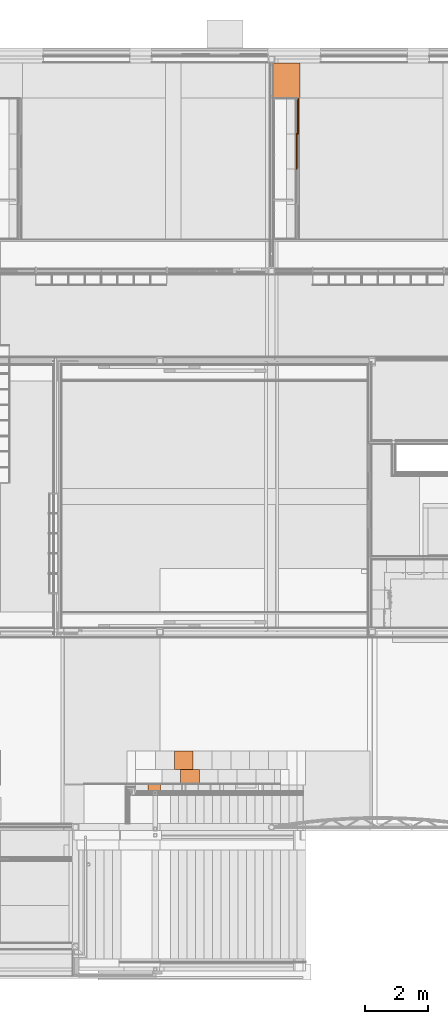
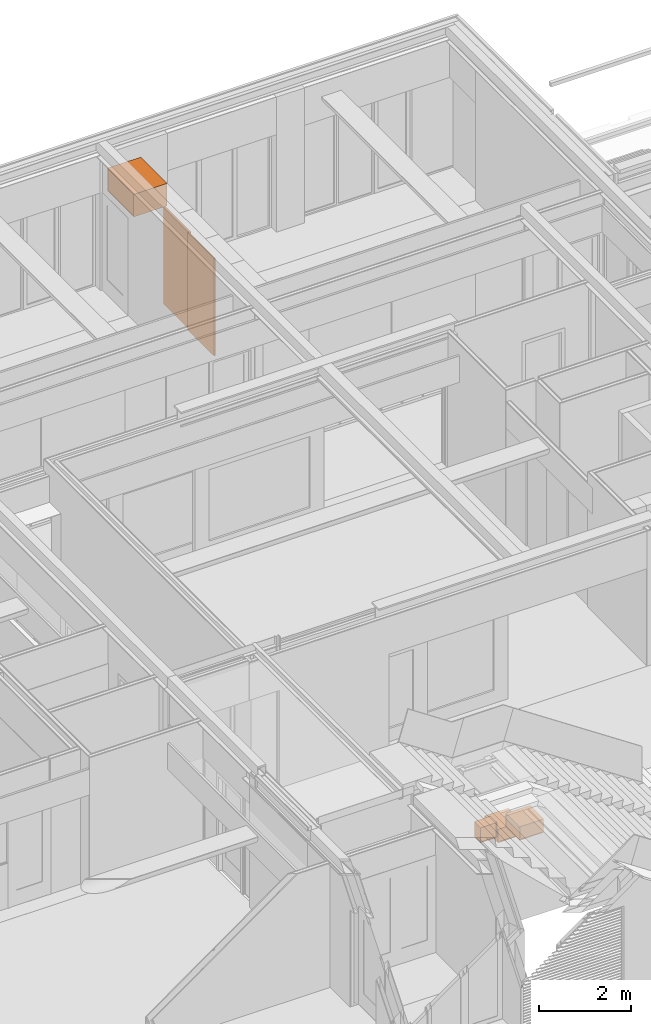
# One storey, part 137 of 165: 6 proxies.
"""IFC2X3 building model written with IfcOpenShell, lengths in millimetres."""

from ifc_helpers import new_model, entity, si_unit, converted_unit, derived_unit, money_unit, direction, frame, origin_with_axes, place, context, subcontext, project, spatial, faceted_brep, source, transform, mapped, type_object, type_shapes, element, save


model = new_model("IFC2X3")

# Units and contexts
model_context = context("Model", 3, precision=0.01, world=origin_with_axes(), true_north=direction((0.0, 1.0)))
body_context = subcontext(model_context, "Body", "Model", "MODEL_VIEW")
ifc_project = project(units=[si_unit("LENGTHUNIT", "METRE", prefix="MILLI"), si_unit("AREAUNIT", "SQUARE_METRE"), si_unit("VOLUMEUNIT", "CUBIC_METRE"), converted_unit("PLANEANGLEUNIT", "DEGREE", entity("IfcPlaneAngleMeasure", 0.0174532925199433), si_unit("PLANEANGLEUNIT", "RADIAN"), dimensions=[0, 0, 0, 0, 0, 0, 0]), money_unit("EUR"), converted_unit("TIMEUNIT", "Year", entity("IfcTimeMeasure", 31556926.0), si_unit("TIMEUNIT", "SECOND"), dimensions=[0, 0, 1, 0, 0, 0, 0]), si_unit("MASSUNIT", "GRAM", prefix="KILO"), si_unit("THERMODYNAMICTEMPERATUREUNIT", "DEGREE_CELSIUS"), si_unit("LUMINOUSINTENSITYUNIT", "LUMEN"), si_unit("ENERGYUNIT", "JOULE", prefix="MEGA"), derived_unit("THERMALCONDUCTANCEUNIT", [(si_unit("POWERUNIT", "WATT"), 1), (si_unit("LENGTHUNIT", "METRE"), -1), (si_unit("THERMODYNAMICTEMPERATUREUNIT", "KELVIN"), -1)]), derived_unit("SPECIFICHEATCAPACITYUNIT", [(si_unit("ENERGYUNIT", "JOULE"), 1), (si_unit("MASSUNIT", "GRAM", prefix="KILO"), -1), (si_unit("THERMODYNAMICTEMPERATUREUNIT", "KELVIN"), -1)]), derived_unit("MASSDENSITYUNIT", [(si_unit("MASSUNIT", "GRAM", prefix="KILO"), 1), (si_unit("VOLUMEUNIT", "CUBIC_METRE"), -1)])], contexts=[model_context])

# Site, building, storey
site_placement = place(None, origin_with_axes())
site = spatial("IfcSite", under=ifc_project, at=site_placement, Name="Site", CompositionType="ELEMENT")
building_placement = place(site_placement, origin_with_axes())
building = spatial("IfcBuilding", under=site, at=building_placement, Name="Naam gebouw", CompositionType="ELEMENT")
storey_placement = place(building_placement, origin_with_axes())
storey = spatial("IfcBuildingStorey", under=building, at=storey_placement, Name="Begane grond", CompositionType="ELEMENT", Elevation=0.0)

# Proxies
building_element_proxy_type_1 = type_object("IfcBuildingElementProxyType", Name="Onderkast recht 26", PredefinedType="NOTDEFINED")
shared_shape_1 = source(origin_with_axes(), body_context, "Body", "Brep", [
    faceted_brep([(0.0, -590.0, 310.0), (600.0, -590.0, 310.0), (600.0, -590.0, 360.0), (0.0, -590.0, 360.0), (0.0, 0.0, 310.0), (600.0, 0.0, 310.0), (600.0, 0.0, 360.0), (0.0, 0.0, 360.0)], [[[0, 1, 2, 3]], [[0, 4, 5, 1]], [[1, 5, 6, 2]], [[3, 2, 6, 7]], [[4, 0, 3, 7]], [[5, 4, 7, 6]]]),
    faceted_brep([(558.9999999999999, -572.0, 23.0), (40.99999999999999, -572.0, 23.0), (40.99999999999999, -18.00000000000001, 23.0), (558.9999999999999, -18.00000000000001, 23.0), (558.9999999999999, -572.0, 33.0), (40.99999999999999, -572.0, 33.0), (40.99999999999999, -18.00000000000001, 33.0), (558.9999999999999, -18.00000000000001, 33.0)], [[[0, 1, 2, 3]], [[1, 0, 4, 5]], [[2, 1, 5, 6]], [[3, 2, 6, 7]], [[0, 3, 7, 4]], [[5, 4, 7, 6]]]),
    faceted_brep([(61.0, -572.0, 33.0), (40.99999999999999, -572.0, 33.0), (40.99999999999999, -18.00000000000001, 33.0), (61.0, -18.00000000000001, 33.0), (61.0, -572.0, 286.9999999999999), (40.99999999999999, -572.0, 286.9999999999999), (40.99999999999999, -18.00000000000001, 286.9999999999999), (61.0, -18.00000000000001, 286.9999999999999)], [[[0, 1, 2, 3]], [[1, 0, 4, 5]], [[2, 1, 5, 6]], [[3, 2, 6, 7]], [[0, 3, 7, 4]], [[5, 4, 7, 6]]]),
    faceted_brep([(558.9999999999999, -572.0, 33.0), (538.9999999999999, -572.0, 33.0), (538.9999999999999, -18.00000000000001, 33.0), (558.9999999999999, -18.00000000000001, 33.0), (558.9999999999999, -572.0, 286.9999999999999), (538.9999999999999, -572.0, 286.9999999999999), (538.9999999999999, -18.00000000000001, 286.9999999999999), (558.9999999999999, -18.00000000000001, 286.9999999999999)], [[[0, 1, 2, 3]], [[1, 0, 4, 5]], [[2, 1, 5, 6]], [[3, 2, 6, 7]], [[0, 3, 7, 4]], [[5, 4, 7, 6]]]),
    faceted_brep([(538.9999999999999, -33.00000000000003, 33.0), (61.0, -33.00000000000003, 33.0), (61.0, -23.00000000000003, 33.0), (538.9999999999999, -23.00000000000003, 33.0), (538.9999999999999, -33.00000000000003, 286.9999999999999), (61.0, -33.00000000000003, 286.9999999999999), (61.0, -23.00000000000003, 286.9999999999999), (538.9999999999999, -23.00000000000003, 286.9999999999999)], [[[0, 1, 2, 3]], [[1, 0, 4, 5]], [[2, 1, 5, 6]], [[3, 2, 6, 7]], [[0, 3, 7, 4]], [[5, 4, 7, 6]]]),
    faceted_brep([(599.0, -590.0, 1.000000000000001), (599.0, -590.0, 309.0), (1.000000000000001, -590.0, 309.0), (1.000000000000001, -590.0, 1.000000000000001), (328.190778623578, -590.0, 240.26060429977), (329.5442325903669, -590.0, 235.2094453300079), (330.0000000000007, -590.0, 230.0), (329.5442325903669, -590.0, 224.7905546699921), (328.190778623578, -590.0, 219.7393957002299), (325.9807621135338, -590.0, 215.0), (322.9813332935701, -590.0, 210.7163717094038), (319.2836282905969, -590.0, 207.0186667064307), (315.0000000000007, -590.0, 204.0192378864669), (310.2606042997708, -590.0, 201.8092213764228), (305.2094453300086, -590.0, 200.4557674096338), (300.0000000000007, -590.0, 200.0), (294.7905546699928, -590.0, 200.4557674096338), (289.7393957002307, -590.0, 201.8092213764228), (285.0000000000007, -590.0, 204.0192378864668), (280.7163717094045, -590.0, 207.0186667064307), (277.0186667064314, -590.0, 210.7163717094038), (274.0192378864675, -590.0, 215.0), (271.8092213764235, -590.0, 219.7393957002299), (270.4557674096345, -590.0, 224.7905546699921), (270.0000000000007, -590.0, 230.0), (270.4557674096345, -590.0, 235.2094453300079), (271.8092213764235, -590.0, 240.2606042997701), (274.0192378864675, -590.0, 245.0), (277.0186667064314, -590.0, 249.2836282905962), (280.7163717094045, -590.0, 252.9813332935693), (285.0000000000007, -590.0, 255.9807621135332), (289.7393957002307, -590.0, 258.1907786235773), (294.7905546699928, -590.0, 259.5442325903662), (300.0000000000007, -590.0, 260.0), (305.2094453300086, -590.0, 259.5442325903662), (310.2606042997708, -590.0, 258.1907786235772), (315.0000000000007, -590.0, 255.9807621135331), (319.2836282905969, -590.0, 252.9813332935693), (322.9813332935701, -590.0, 249.2836282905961), (325.9807621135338, -590.0, 244.9999999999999), (599.0, -572.0, 309.0), (599.0, -572.0, 1.000000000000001), (1.000000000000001, -572.0, 309.0), (1.000000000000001, -572.0, 1.000000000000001), (328.190778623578, -572.0, 240.26060429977), (329.5442325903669, -572.0, 235.2094453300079), (330.0000000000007, -572.0, 230.0), (329.5442325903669, -572.0, 224.7905546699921), (328.190778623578, -572.0, 219.7393957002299), (325.9807621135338, -572.0, 215.0), (322.9813332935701, -572.0, 210.7163717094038), (319.2836282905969, -572.0, 207.0186667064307), (315.0000000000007, -572.0, 204.0192378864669), (310.2606042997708, -572.0, 201.8092213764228), (305.2094453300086, -572.0, 200.4557674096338), (300.0000000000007, -572.0, 200.0), (294.7905546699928, -572.0, 200.4557674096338), (289.7393957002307, -572.0, 201.8092213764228), (285.0000000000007, -572.0, 204.0192378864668), (280.7163717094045, -572.0, 207.0186667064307), (277.0186667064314, -572.0, 210.7163717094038), (274.0192378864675, -572.0, 215.0), (271.8092213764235, -572.0, 219.7393957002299), (270.4557674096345, -572.0, 224.7905546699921), (270.0000000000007, -572.0, 230.0), (270.4557674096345, -572.0, 235.2094453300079), (271.8092213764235, -572.0, 240.2606042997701), (274.0192378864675, -572.0, 245.0), (277.0186667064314, -572.0, 249.2836282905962), (280.7163717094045, -572.0, 252.9813332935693), (285.0000000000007, -572.0, 255.9807621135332), (289.7393957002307, -572.0, 258.1907786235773), (294.7905546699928, -572.0, 259.5442325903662), (300.0000000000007, -572.0, 260.0), (305.2094453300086, -572.0, 259.5442325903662), (310.2606042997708, -572.0, 258.1907786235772), (315.0000000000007, -572.0, 255.9807621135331), (319.2836282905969, -572.0, 252.9813332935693), (322.9813332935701, -572.0, 249.2836282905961), (325.9807621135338, -572.0, 244.9999999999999)], [[[0, 1, 2, 3], [4, 5, 6, 7, 8, 9, 10, 11, 12, 13, 14, 15, 16, 17, 18, 19, 20, 21, 22, 23, 24, 25, 26, 27, 28, 29, 30, 31, 32, 33, 34, 35, 36, 37, 38, 39]], [[40, 1, 0, 41]], [[42, 2, 1, 40]], [[43, 3, 2, 42]], [[41, 0, 3, 43]], [[44, 45, 5, 4]], [[45, 46, 6, 5]], [[46, 47, 7, 6]], [[47, 48, 8, 7]], [[48, 49, 9, 8]], [[49, 50, 10, 9]], [[50, 51, 11, 10]], [[51, 52, 12, 11]], [[52, 53, 13, 12]], [[53, 54, 14, 13]], [[54, 55, 15, 14]], [[55, 56, 16, 15]], [[56, 57, 17, 16]], [[57, 58, 18, 17]], [[58, 59, 19, 18]], [[59, 60, 20, 19]], [[60, 61, 21, 20]], [[61, 62, 22, 21]], [[62, 63, 23, 22]], [[63, 64, 24, 23]], [[64, 65, 25, 24]], [[65, 66, 26, 25]], [[66, 67, 27, 26]], [[67, 68, 28, 27]], [[68, 69, 29, 28]], [[69, 70, 30, 29]], [[70, 71, 31, 30]], [[71, 72, 32, 31]], [[72, 73, 33, 32]], [[73, 74, 34, 33]], [[74, 75, 35, 34]], [[75, 76, 36, 35]], [[76, 77, 37, 36]], [[77, 78, 38, 37]], [[78, 79, 39, 38]], [[79, 44, 4, 39]], [[42, 40, 41, 43], [48, 47, 46, 45, 44, 79, 78, 77, 76, 75, 74, 73, 72, 71, 70, 69, 68, 67, 66, 65, 64, 63, 62, 61, 60, 59, 58, 57, 56, 55, 54, 53, 52, 51, 50, 49]]]),
    faceted_brep([(18.0, -1.0, 1.0), (18.0, -571.0, 1.0), (0.0, -571.0, 1.000000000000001), (0.0, -1.0, 1.000000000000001), (18.00000000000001, -1.0, 309.0), (18.00000000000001, -571.0, 309.0), (0.0, -571.0, 309.0), (0.0, -1.0, 309.0)], [[[0, 1, 2, 3]], [[0, 4, 5, 1]], [[1, 5, 6, 2]], [[3, 2, 6, 7]], [[4, 0, 3, 7]], [[5, 4, 7, 6]]]),
    faceted_brep([(582.0, -571.0, 1.0), (582.0, -1.000000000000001, 1.0), (600.0, -1.000000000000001, 1.000000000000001), (600.0, -571.0, 1.000000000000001), (582.0, -571.0, 309.0), (582.0, -1.000000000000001, 309.0), (600.0, -1.000000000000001, 309.0), (600.0, -571.0, 309.0)], [[[0, 1, 2, 3]], [[0, 4, 5, 1]], [[1, 5, 6, 2]], [[3, 2, 6, 7]], [[4, 0, 3, 7]], [[5, 4, 7, 6]]]),
    faceted_brep([(36.0, -572.0, 0.0), (564.0, -572.0, 0.0), (564.0, -572.0, 18.0), (36.0, -572.0, 18.0), (36.0, 0.0, 0.0), (564.0, 0.0, 0.0), (564.0, 0.0, 18.0), (36.0, 0.0, 18.0)], [[[0, 1, 2, 3]], [[0, 4, 5, 1]], [[1, 5, 6, 2]], [[3, 2, 6, 7]], [[4, 0, 3, 7]], [[5, 4, 7, 6]]]),
    faceted_brep([(36.0, -572.0, 292.0), (36.0, -512.0, 292.0), (564.0, -512.0, 292.0), (564.0, -572.0, 292.0), (36.0, -572.0, 310.0), (36.0, -512.0, 310.0), (564.0, -512.0, 310.0), (564.0, -572.0, 310.0)], [[[0, 1, 2, 3]], [[0, 4, 5, 1]], [[1, 5, 6, 2]], [[3, 2, 6, 7]], [[4, 0, 3, 7]], [[5, 4, 7, 6]]]),
    faceted_brep([(564.0, 0.0, 292.0), (564.0, -60.0, 292.0), (36.0, -60.0, 292.0), (36.0, 0.0, 292.0), (564.0, 0.0, 310.0), (564.0, -60.0, 310.0), (36.0, -60.0, 310.0), (36.0, 0.0, 310.0)], [[[0, 1, 2, 3]], [[0, 4, 5, 1]], [[1, 5, 6, 2]], [[3, 2, 6, 7]], [[4, 0, 3, 7]], [[5, 4, 7, 6]]]),
    faceted_brep([(18.0, 0.0, 0.0), (18.0, -572.0, 0.0), (18.0, -572.0, 310.0), (18.0, 0.0, 310.0), (36.0, 0.0, 0.0), (36.0, -572.0, 0.0), (36.0, -572.0, 310.0), (36.0, 0.0, 310.0)], [[[0, 1, 2, 3]], [[0, 4, 5, 1]], [[1, 5, 6, 2]], [[3, 2, 6, 7]], [[4, 0, 3, 7]], [[5, 4, 7, 6]]]),
    faceted_brep([(582.0, -572.0, 0.0), (582.0, 0.0, 0.0), (582.0, 0.0, 310.0), (582.0, -572.0, 310.0), (564.0, -572.0, 0.0), (564.0, 0.0, 0.0), (564.0, 0.0, 310.0), (564.0, -572.0, 310.0)], [[[0, 1, 2, 3]], [[0, 4, 5, 1]], [[1, 5, 6, 2]], [[3, 2, 6, 7]], [[4, 0, 3, 7]], [[5, 4, 7, 6]]]),
    faceted_brep([(564.0, -9.0, 18.0), (36.00000000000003, -9.0, 18.0), (36.00000000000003, -9.0, 292.0000000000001), (564.0, -9.0, 292.0000000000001), (564.0, -18.0, 18.0), (36.00000000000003, -18.0, 18.0), (36.00000000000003, -18.0, 292.0000000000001), (564.0, -18.0, 292.0000000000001)], [[[0, 1, 2, 3]], [[0, 4, 5, 1]], [[1, 5, 6, 2]], [[3, 2, 6, 7]], [[4, 0, 3, 7]], [[5, 4, 7, 6]]]),
])
proxy_1_placement = place(storey_placement, frame((15200.00001687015, 6430.000292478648, 0.0), z_axis=(0.0, 0.0, 1.0), x_axis=(-1.0, 0.0, 0.0)))
element("IfcBuildingElementProxy", 1, at=proxy_1_placement, inside=storey, type_object=building_element_proxy_type_1, Name="_Leeg", context=body_context, shape_type="MappedRepresentation", body=[
    mapped(shared_shape_1, transform((0.0, 0.0, 0.0))),
])
shared_shape_2 = source(origin_with_axes(), body_context, "Body", "Brep", [
    faceted_brep([(0.0, -600.0, 310.0), (0.0, -600.0, 360.0), (-600.0, -600.0, 360.0), (-600.0, -600.0, 310.0), (0.0, 0.0, 310.0), (0.0, 0.0, 360.0), (-600.0, 0.0, 360.0), (-600.0, 0.0, 310.0)], [[[0, 1, 2, 3]], [[4, 5, 1, 0]], [[1, 5, 6, 2]], [[3, 2, 6, 7]], [[0, 3, 7, 4]], [[7, 6, 5, 4]]]),
    faceted_brep([(-558.9999999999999, -582.0, 23.0), (-558.9999999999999, -18.00000000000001, 23.0), (-40.99999999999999, -18.00000000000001, 23.0), (-40.99999999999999, -582.0, 23.0), (-558.9999999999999, -582.0, 33.0), (-558.9999999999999, -18.00000000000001, 33.0), (-40.99999999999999, -18.00000000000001, 33.0), (-40.99999999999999, -582.0, 33.0)], [[[0, 1, 2, 3]], [[0, 4, 5, 1]], [[1, 5, 6, 2]], [[2, 6, 7, 3]], [[3, 7, 4, 0]], [[7, 6, 5, 4]]]),
    faceted_brep([(-61.0, -582.0, 33.0), (-61.0, -18.00000000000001, 33.0), (-40.99999999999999, -18.00000000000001, 33.0), (-40.99999999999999, -582.0, 33.0), (-61.0, -582.0, 286.9999999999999), (-61.0, -18.00000000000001, 286.9999999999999), (-40.99999999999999, -18.00000000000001, 286.9999999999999), (-40.99999999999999, -582.0, 286.9999999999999)], [[[0, 1, 2, 3]], [[0, 4, 5, 1]], [[1, 5, 6, 2]], [[2, 6, 7, 3]], [[3, 7, 4, 0]], [[7, 6, 5, 4]]]),
    faceted_brep([(-558.9999999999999, -582.0, 33.0), (-558.9999999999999, -18.00000000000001, 33.0), (-538.9999999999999, -18.00000000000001, 33.0), (-538.9999999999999, -582.0, 33.0), (-558.9999999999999, -582.0, 286.9999999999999), (-558.9999999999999, -18.00000000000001, 286.9999999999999), (-538.9999999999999, -18.00000000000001, 286.9999999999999), (-538.9999999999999, -582.0, 286.9999999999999)], [[[0, 1, 2, 3]], [[0, 4, 5, 1]], [[1, 5, 6, 2]], [[2, 6, 7, 3]], [[3, 7, 4, 0]], [[7, 6, 5, 4]]]),
    faceted_brep([(-538.9999999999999, -33.00000000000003, 33.0), (-538.9999999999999, -23.00000000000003, 33.0), (-61.0, -23.00000000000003, 33.0), (-61.0, -33.00000000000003, 33.0), (-538.9999999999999, -33.00000000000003, 286.9999999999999), (-538.9999999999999, -23.00000000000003, 286.9999999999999), (-61.0, -23.00000000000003, 286.9999999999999), (-61.0, -33.00000000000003, 286.9999999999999)], [[[0, 1, 2, 3]], [[0, 4, 5, 1]], [[1, 5, 6, 2]], [[2, 6, 7, 3]], [[3, 7, 4, 0]], [[7, 6, 5, 4]]]),
    faceted_brep([(-599.0, -600.0, 1.000000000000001), (-1.000000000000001, -600.0, 1.000000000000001), (-1.000000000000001, -600.0, 309.0), (-599.0, -600.0, 309.0), (-328.1907786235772, -600.0, 240.26060429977), (-325.9807621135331, -600.0, 244.9999999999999), (-322.9813332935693, -600.0, 249.2836282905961), (-319.2836282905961, -600.0, 252.9813332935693), (-314.9999999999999, -600.0, 255.9807621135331), (-310.26060429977, -600.0, 258.1907786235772), (-305.2094453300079, -600.0, 259.5442325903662), (-300.0, -600.0, 260.0), (-294.7905546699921, -600.0, 259.5442325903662), (-289.7393957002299, -600.0, 258.1907786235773), (-285.0, -600.0, 255.9807621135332), (-280.7163717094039, -600.0, 252.9813332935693), (-277.0186667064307, -600.0, 249.2836282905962), (-274.0192378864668, -600.0, 245.0), (-271.8092213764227, -600.0, 240.2606042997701), (-270.4557674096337, -600.0, 235.2094453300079), (-270.0, -600.0, 230.0), (-270.4557674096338, -600.0, 224.7905546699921), (-271.8092213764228, -600.0, 219.7393957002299), (-274.0192378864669, -600.0, 215.0), (-277.0186667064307, -600.0, 210.7163717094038), (-280.7163717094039, -600.0, 207.0186667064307), (-285.0, -600.0, 204.0192378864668), (-289.7393957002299, -600.0, 201.8092213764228), (-294.7905546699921, -600.0, 200.4557674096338), (-300.0, -600.0, 200.0), (-305.2094453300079, -600.0, 200.4557674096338), (-310.26060429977, -600.0, 201.8092213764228), (-314.9999999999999, -600.0, 204.0192378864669), (-319.2836282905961, -600.0, 207.0186667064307), (-322.9813332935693, -600.0, 210.7163717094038), (-325.9807621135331, -600.0, 215.0), (-328.1907786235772, -600.0, 219.7393957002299), (-329.5442325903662, -600.0, 224.7905546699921), (-329.9999999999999, -600.0, 230.0), (-329.5442325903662, -600.0, 235.2094453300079), (-599.0, -582.0, 1.000000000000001), (-1.000000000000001, -582.0, 1.000000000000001), (-1.000000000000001, -582.0, 309.0), (-599.0, -582.0, 309.0), (-325.9807621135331, -582.0, 244.9999999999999), (-328.1907786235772, -582.0, 240.26060429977), (-322.9813332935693, -582.0, 249.2836282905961), (-319.2836282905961, -582.0, 252.9813332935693), (-314.9999999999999, -582.0, 255.9807621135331), (-310.26060429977, -582.0, 258.1907786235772), (-305.2094453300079, -582.0, 259.5442325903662), (-300.0, -582.0, 260.0), (-294.7905546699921, -582.0, 259.5442325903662), (-289.7393957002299, -582.0, 258.1907786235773), (-285.0, -582.0, 255.9807621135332), (-280.7163717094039, -582.0, 252.9813332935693), (-277.0186667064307, -582.0, 249.2836282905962), (-274.0192378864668, -582.0, 245.0), (-271.8092213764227, -582.0, 240.2606042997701), (-270.4557674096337, -582.0, 235.2094453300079), (-270.0, -582.0, 230.0), (-270.4557674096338, -582.0, 224.7905546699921), (-271.8092213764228, -582.0, 219.7393957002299), (-274.0192378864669, -582.0, 215.0), (-277.0186667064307, -582.0, 210.7163717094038), (-280.7163717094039, -582.0, 207.0186667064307), (-285.0, -582.0, 204.0192378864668), (-289.7393957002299, -582.0, 201.8092213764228), (-294.7905546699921, -582.0, 200.4557674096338), (-300.0, -582.0, 200.0), (-305.2094453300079, -582.0, 200.4557674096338), (-310.26060429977, -582.0, 201.8092213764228), (-314.9999999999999, -582.0, 204.0192378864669), (-319.2836282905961, -582.0, 207.0186667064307), (-322.9813332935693, -582.0, 210.7163717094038), (-325.9807621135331, -582.0, 215.0), (-328.1907786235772, -582.0, 219.7393957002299), (-329.5442325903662, -582.0, 224.7905546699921), (-329.9999999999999, -582.0, 230.0), (-329.5442325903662, -582.0, 235.2094453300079)], [[[0, 1, 2, 3], [4, 5, 6, 7, 8, 9, 10, 11, 12, 13, 14, 15, 16, 17, 18, 19, 20, 21, 22, 23, 24, 25, 26, 27, 28, 29, 30, 31, 32, 33, 34, 35, 36, 37, 38, 39]], [[40, 41, 1, 0]], [[41, 42, 2, 1]], [[42, 43, 3, 2]], [[43, 40, 0, 3]], [[44, 5, 4, 45]], [[46, 6, 5, 44]], [[47, 7, 6, 46]], [[48, 8, 7, 47]], [[49, 9, 8, 48]], [[50, 10, 9, 49]], [[51, 11, 10, 50]], [[52, 12, 11, 51]], [[53, 13, 12, 52]], [[54, 14, 13, 53]], [[55, 15, 14, 54]], [[56, 16, 15, 55]], [[57, 17, 16, 56]], [[58, 18, 17, 57]], [[59, 19, 18, 58]], [[60, 20, 19, 59]], [[61, 21, 20, 60]], [[62, 22, 21, 61]], [[63, 23, 22, 62]], [[64, 24, 23, 63]], [[65, 25, 24, 64]], [[66, 26, 25, 65]], [[67, 27, 26, 66]], [[68, 28, 27, 67]], [[69, 29, 28, 68]], [[70, 30, 29, 69]], [[71, 31, 30, 70]], [[72, 32, 31, 71]], [[73, 33, 32, 72]], [[74, 34, 33, 73]], [[75, 35, 34, 74]], [[76, 36, 35, 75]], [[77, 37, 36, 76]], [[78, 38, 37, 77]], [[79, 39, 38, 78]], [[45, 4, 39, 79]], [[42, 41, 40, 43], [76, 75, 74, 73, 72, 71, 70, 69, 68, 67, 66, 65, 64, 63, 62, 61, 60, 59, 58, 57, 56, 55, 54, 53, 52, 51, 50, 49, 48, 47, 46, 44, 45, 79, 78, 77]]]),
    faceted_brep([(-18.0, -1.0, 1.0), (0.0, -1.0, 1.000000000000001), (0.0, -581.0, 1.000000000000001), (-18.0, -581.0, 1.0), (-18.00000000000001, -1.0, 309.0), (0.0, -1.0, 309.0), (0.0, -581.0, 309.0), (-18.00000000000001, -581.0, 309.0)], [[[0, 1, 2, 3]], [[4, 5, 1, 0]], [[1, 5, 6, 2]], [[3, 2, 6, 7]], [[0, 3, 7, 4]], [[7, 6, 5, 4]]]),
    faceted_brep([(-582.0, -581.0, 1.0), (-600.0, -581.0, 1.000000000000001), (-600.0, -1.000000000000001, 1.000000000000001), (-582.0, -1.000000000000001, 1.0), (-582.0, -581.0, 309.0), (-600.0, -581.0, 309.0), (-600.0, -1.000000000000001, 309.0), (-582.0, -1.000000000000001, 309.0)], [[[0, 1, 2, 3]], [[4, 5, 1, 0]], [[1, 5, 6, 2]], [[3, 2, 6, 7]], [[0, 3, 7, 4]], [[7, 6, 5, 4]]]),
    faceted_brep([(-36.0, -582.0, 0.0), (-36.0, -582.0, 18.0), (-564.0, -582.0, 18.0), (-564.0, -582.0, 0.0), (-36.0, 0.0, 0.0), (-36.0, 0.0, 18.0), (-564.0, 0.0, 18.0), (-564.0, 0.0, 0.0)], [[[0, 1, 2, 3]], [[4, 5, 1, 0]], [[1, 5, 6, 2]], [[3, 2, 6, 7]], [[0, 3, 7, 4]], [[7, 6, 5, 4]]]),
    faceted_brep([(-36.0, -582.0, 292.0), (-564.0, -582.0, 292.0), (-564.0, -522.0, 292.0), (-36.0, -522.0, 292.0), (-36.0, -582.0, 310.0), (-564.0, -582.0, 310.0), (-564.0, -522.0, 310.0), (-36.0, -522.0, 310.0)], [[[0, 1, 2, 3]], [[4, 5, 1, 0]], [[1, 5, 6, 2]], [[3, 2, 6, 7]], [[0, 3, 7, 4]], [[7, 6, 5, 4]]]),
    faceted_brep([(-564.0, 0.0, 292.0), (-36.0, 0.0, 292.0), (-36.0, -60.0, 292.0), (-564.0, -60.0, 292.0), (-564.0, 0.0, 310.0), (-36.0, 0.0, 310.0), (-36.0, -60.0, 310.0), (-564.0, -60.0, 310.0)], [[[0, 1, 2, 3]], [[4, 5, 1, 0]], [[1, 5, 6, 2]], [[3, 2, 6, 7]], [[0, 3, 7, 4]], [[7, 6, 5, 4]]]),
    faceted_brep([(-18.0, 0.0, 0.0), (-18.0, 0.0, 310.0), (-18.0, -582.0, 310.0), (-18.0, -582.0, 0.0), (-36.0, 0.0, 0.0), (-36.0, 0.0, 310.0), (-36.0, -582.0, 310.0), (-36.0, -582.0, 0.0)], [[[0, 1, 2, 3]], [[4, 5, 1, 0]], [[1, 5, 6, 2]], [[3, 2, 6, 7]], [[0, 3, 7, 4]], [[7, 6, 5, 4]]]),
    faceted_brep([(-582.0, -582.0, 0.0), (-582.0, -582.0, 310.0), (-582.0, 0.0, 310.0), (-582.0, 0.0, 0.0), (-564.0, -582.0, 0.0), (-564.0, -582.0, 310.0), (-564.0, 0.0, 310.0), (-564.0, 0.0, 0.0)], [[[0, 1, 2, 3]], [[4, 5, 1, 0]], [[1, 5, 6, 2]], [[3, 2, 6, 7]], [[0, 3, 7, 4]], [[7, 6, 5, 4]]]),
    faceted_brep([(-564.0, -9.0, 18.0), (-564.0, -9.0, 292.0000000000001), (-36.00000000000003, -9.0, 292.0000000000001), (-36.00000000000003, -9.0, 18.0), (-564.0, -18.0, 18.0), (-564.0, -18.0, 292.0000000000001), (-36.00000000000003, -18.0, 292.0000000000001), (-36.00000000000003, -18.0, 18.0)], [[[0, 1, 2, 3]], [[4, 5, 1, 0]], [[1, 5, 6, 2]], [[3, 2, 6, 7]], [[0, 3, 7, 4]], [[7, 6, 5, 4]]]),
])
proxy_2_placement = place(storey_placement, frame((14800.00001687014, 5830.000239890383, 359.9999999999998), z_axis=(0.0, 0.0, 1.0), x_axis=(-1.0, 0.0, 0.0)))
element("IfcBuildingElementProxy", 2, at=proxy_2_placement, inside=storey, type_object=building_element_proxy_type_1, Name="_Leeg", context=body_context, shape_type="MappedRepresentation", body=[
    mapped(shared_shape_2, transform((0.0, 0.0, 0.0))),
])
shared_shape_3 = source(origin_with_axes(), body_context, "Body", "Brep", [
    faceted_brep([(-1.0, -826.9999999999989, 1.0), (-1.0, -844.9999999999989, 1.000000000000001), (-1152.000152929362, -844.9999999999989, 1.000000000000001), (-1152.000152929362, -826.9999999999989, 1.0), (-1.0, -826.9999999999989, 599.0), (-1.0, -844.9999999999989, 599.0), (-1152.000152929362, -844.9999999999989, 599.0), (-1152.000152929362, -826.9999999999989, 599.0)], [[[0, 1, 2, 3]], [[4, 5, 1, 0]], [[1, 5, 6, 2]], [[3, 2, 6, 7]], [[0, 3, 7, 4]], [[7, 6, 5, 4]]]),
    faceted_brep([(-18.0, -826.9999999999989, 0.0), (-18.0, -826.9999999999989, 18.0), (-1135.000152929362, -826.9999999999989, 18.0), (-1135.000152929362, -826.9999999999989, 0.0), (-18.0, 0.0, 0.0), (-18.0, 0.0, 18.0), (-1135.000152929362, 0.0, 18.0), (-1135.000152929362, 0.0, 0.0)], [[[0, 1, 2, 3]], [[4, 5, 1, 0]], [[1, 5, 6, 2]], [[3, 2, 6, 7]], [[0, 3, 7, 4]], [[7, 6, 5, 4]]]),
    faceted_brep([(-18.0, -826.9999999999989, 582.0), (-18.0, -826.9999999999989, 600.0), (-1135.000152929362, -826.9999999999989, 600.0), (-1135.000152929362, -826.9999999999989, 582.0), (-18.0, 0.0, 582.0), (-18.0, 0.0, 600.0), (-1135.000152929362, 0.0, 600.0), (-1135.000152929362, 0.0, 582.0)], [[[0, 1, 2, 3]], [[4, 5, 1, 0]], [[1, 5, 6, 2]], [[3, 2, 6, 7]], [[0, 3, 7, 4]], [[7, 6, 5, 4]]]),
    faceted_brep([(0.0, 0.0, 0.0), (0.0, 0.0, 600.0), (0.0, -826.9999999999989, 600.0), (0.0, -826.9999999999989, 0.0), (-18.0, 0.0, 0.0), (-18.0, 0.0, 600.0), (-18.0, -826.9999999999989, 600.0), (-18.0, -826.9999999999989, 0.0)], [[[0, 1, 2, 3]], [[4, 5, 1, 0]], [[1, 5, 6, 2]], [[3, 2, 6, 7]], [[0, 3, 7, 4]], [[7, 6, 5, 4]]]),
    faceted_brep([(-1153.000152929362, -826.9999999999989, 0.0), (-1153.000152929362, -826.9999999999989, 600.0), (-1153.000152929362, 0.0, 600.0), (-1153.000152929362, 0.0, 0.0), (-1135.000152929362, -826.9999999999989, 0.0), (-1135.000152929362, -826.9999999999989, 600.0), (-1135.000152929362, 0.0, 600.0), (-1135.000152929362, 0.0, 0.0)], [[[0, 1, 2, 3]], [[4, 5, 1, 0]], [[1, 5, 6, 2]], [[3, 2, 6, 7]], [[0, 3, 7, 4]], [[7, 6, 5, 4]]]),
    faceted_brep([(-1135.000152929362, -9.0, 18.0), (-1135.000152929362, -9.0, 582.0), (-18.00000000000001, -9.0, 582.0), (-18.00000000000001, -9.0, 18.0), (-1135.000152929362, -18.0, 18.0), (-1135.000152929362, -18.0, 582.0), (-18.00000000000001, -18.0, 582.0), (-18.00000000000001, -18.0, 18.0)], [[[0, 1, 2, 3]], [[4, 5, 1, 0]], [[1, 5, 6, 2]], [[3, 2, 6, 7]], [[0, 3, 7, 4]], [[7, 6, 5, 4]]]),
])
proxy_3_placement = place(storey_placement, frame((17762.49942456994, 28961.0, 2600.0), z_axis=(0.0, 0.0, 1.0), x_axis=(0.0, 1.0, 0.0)))
element("IfcBuildingElementProxy", 3, at=proxy_3_placement, inside=storey, type_object=building_element_proxy_type_1, Name="_Leeg", context=body_context, shape_type="MappedRepresentation", body=[
    mapped(shared_shape_3, transform((0.0, 0.0, 0.0))),
])
shared_shape_4 = source(origin_with_axes(), body_context, "Body", "Brep", [
    faceted_brep([(18.0, -280.0000000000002, 0.0), (391.0000000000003, -280.0000000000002, 0.0), (391.0000000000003, -280.0000000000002, 18.0), (18.0, -280.0000000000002, 18.0), (18.0, 0.0, 0.0), (391.0000000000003, 0.0, 0.0), (391.0000000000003, 0.0, 18.0), (18.0, 0.0, 18.0)], [[[0, 1, 2, 3]], [[0, 4, 5, 1]], [[1, 5, 6, 2]], [[3, 2, 6, 7]], [[4, 0, 3, 7]], [[5, 4, 7, 6]]]),
    faceted_brep([(18.0, -280.0000000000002, 381.9999999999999), (391.0000000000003, -280.0000000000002, 381.9999999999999), (391.0000000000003, -280.0000000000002, 399.9999999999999), (18.0, -280.0000000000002, 399.9999999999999), (18.0, 0.0, 381.9999999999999), (391.0000000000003, 0.0, 381.9999999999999), (391.0000000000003, 0.0, 399.9999999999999), (18.0, 0.0, 399.9999999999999)], [[[0, 1, 2, 3]], [[0, 4, 5, 1]], [[1, 5, 6, 2]], [[3, 2, 6, 7]], [[4, 0, 3, 7]], [[5, 4, 7, 6]]]),
    faceted_brep([(0.0, 0.0, 0.0), (0.0, -280.0000000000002, 0.0), (0.0, -280.0000000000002, 399.9999999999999), (0.0, 0.0, 399.9999999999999), (18.0, 0.0, 0.0), (18.0, -280.0000000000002, 0.0), (18.0, -280.0000000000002, 399.9999999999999), (18.0, 0.0, 399.9999999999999)], [[[0, 1, 2, 3]], [[0, 4, 5, 1]], [[1, 5, 6, 2]], [[3, 2, 6, 7]], [[4, 0, 3, 7]], [[5, 4, 7, 6]]]),
    faceted_brep([(409.0000000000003, -280.0000000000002, 0.0), (409.0000000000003, 0.0, 0.0), (409.0000000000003, 0.0, 399.9999999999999), (409.0000000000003, -280.0000000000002, 399.9999999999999), (391.0000000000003, -280.0000000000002, 0.0), (391.0000000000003, 0.0, 0.0), (391.0000000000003, 0.0, 399.9999999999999), (391.0000000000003, -280.0000000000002, 399.9999999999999)], [[[0, 1, 2, 3]], [[0, 4, 5, 1]], [[1, 5, 6, 2]], [[3, 2, 6, 7]], [[4, 0, 3, 7]], [[5, 4, 7, 6]]]),
    faceted_brep([(391.0000000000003, -9.0, 18.0), (18.00000000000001, -9.0, 18.0), (18.00000000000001, -9.0, 381.9999999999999), (391.0000000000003, -9.0, 381.9999999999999), (391.0000000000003, -18.0, 18.0), (18.00000000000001, -18.0, 18.0), (18.00000000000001, -18.0, 381.9999999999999), (391.0000000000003, -18.0, 381.9999999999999)], [[[0, 1, 2, 3]], [[0, 4, 5, 1]], [[1, 5, 6, 2]], [[3, 2, 6, 7]], [[4, 0, 3, 7]], [[5, 4, 7, 6]]]),
])
type_shapes(building_element_proxy_type_1, [shared_shape_1, shared_shape_2, shared_shape_3, shared_shape_4])
proxy_4_placement = place(storey_placement, frame((14167.57015574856, 5729.997304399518, 719.9999999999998), z_axis=(0.0, 0.0, 1.0), x_axis=(-1.0, 0.0, 0.0)))
element("IfcBuildingElementProxy", 4, at=proxy_4_placement, inside=storey, type_object=building_element_proxy_type_1, Name="_Leeg", context=body_context, shape_type="MappedRepresentation", body=[
    mapped(shared_shape_4, transform((0.0, 0.0, 0.0))),
])
building_element_proxy_type_2 = type_object("IfcBuildingElementProxyType", Name="gevelbekleding", PredefinedType="NOTDEFINED")
shared_shape_5 = source(origin_with_axes(), body_context, "Body", "Brep", [
    faceted_brep([(570.0000707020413, 0.0, 0.0), (570.0000707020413, -35.0, 0.0), (565.0000707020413, -35.0, 0.0), (565.0000707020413, 0.0, 0.0), (570.0000707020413, 0.0, 2600.0), (570.0000707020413, -35.0, 2600.0), (565.0000707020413, -35.0, 2600.0), (565.0000707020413, 0.0, 2600.0)], [[[0, 1, 2, 3]], [[4, 5, 1, 0]], [[1, 5, 6, 2]], [[3, 2, 6, 7]], [[0, 3, 7, 4]], [[7, 6, 5, 4]]]),
    faceted_brep([(-570.0000707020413, 0.0, 0.0), (-570.0000707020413, -35.0, 0.0), (-570.0000707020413, -35.0, 2600.0), (-570.0000707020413, 0.0, 2600.0), (-565.0000707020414, 0.0, 0.0), (-565.0000707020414, -35.0, 0.0), (-565.0000707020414, -35.0, 2600.0), (-565.0000707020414, 0.0, 2600.0)], [[[0, 1, 2, 3]], [[4, 5, 1, 0]], [[1, 5, 6, 2]], [[3, 2, 6, 7]], [[0, 3, 7, 4]], [[7, 6, 5, 4]]]),
    faceted_brep([(570.0000707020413, 0.0, 0.0), (570.0000707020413, -35.0, 0.0), (-570.0000707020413, -35.0, 0.0), (-570.0000707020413, 0.0, 0.0), (570.0000707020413, 0.0, 2600.0), (570.0000707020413, -35.0, 2600.0), (-570.0000707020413, -35.0, 2600.0), (-570.0000707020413, 0.0, 2600.0)], [[[0, 1, 2, 3]], [[4, 5, 1, 0]], [[1, 5, 6, 2]], [[3, 2, 6, 7]], [[0, 3, 7, 4]], [[7, 6, 5, 4]]]),
])
proxy_5_placement = place(storey_placement, frame((18562.49942456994, 27827.99984229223, 0.0), z_axis=(0.0, 0.0, 1.0), x_axis=(0.0, -1.0, 0.0)))
element("IfcBuildingElementProxy", 5, at=proxy_5_placement, inside=storey, type_object=building_element_proxy_type_2, Name="_-", context=body_context, shape_type="MappedRepresentation", body=[
    mapped(shared_shape_5, transform((570.00007070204, 0.0, 0.0))),
])
shared_shape_6 = source(origin_with_axes(), body_context, "Body", "Brep", [
    faceted_brep([(-577.5, 0.0, 0.0), (-572.5, 0.0, 0.0), (-572.5, -35.0, 0.0), (-577.5, -35.0, 0.0), (-577.5, 0.0, 2600.0), (-572.5, 0.0, 2600.0), (-572.5, -35.0, 2600.0), (-577.5, -35.0, 2600.0)], [[[0, 1, 2, 3]], [[0, 4, 5, 1]], [[1, 5, 6, 2]], [[3, 2, 6, 7]], [[4, 0, 3, 7]], [[5, 4, 7, 6]]]),
    faceted_brep([(577.5, 0.0, 0.0), (577.5, 0.0, 2600.0), (577.5, -35.0, 2600.0), (577.5, -35.0, 0.0), (572.5000000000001, 0.0, 0.0), (572.5000000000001, 0.0, 2600.0), (572.5000000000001, -35.0, 2600.0), (572.5000000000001, -35.0, 0.0)], [[[0, 1, 2, 3]], [[0, 4, 5, 1]], [[1, 5, 6, 2]], [[3, 2, 6, 7]], [[4, 0, 3, 7]], [[5, 4, 7, 6]]]),
    faceted_brep([(-577.5, 0.0, 0.0), (577.5, 0.0, 0.0), (577.5, -35.0, 0.0), (-577.5, -35.0, 0.0), (-577.5, 0.0, 2600.0), (577.5, 0.0, 2600.0), (577.5, -35.0, 2600.0), (-577.5, -35.0, 2600.0)], [[[0, 1, 2, 3]], [[0, 4, 5, 1]], [[1, 5, 6, 2]], [[3, 2, 6, 7]], [[4, 0, 3, 7]], [[5, 4, 7, 6]]]),
])
type_shapes(building_element_proxy_type_2, [shared_shape_5, shared_shape_6])
proxy_6_placement = place(storey_placement, frame((18562.49942456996, 26717.99977159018, 0.0), z_axis=(0.0, 0.0, 1.0), x_axis=(0.0, -1.0, 0.0)))
element("IfcBuildingElementProxy", 6, at=proxy_6_placement, inside=storey, type_object=building_element_proxy_type_2, Name="_-", context=body_context, shape_type="MappedRepresentation", body=[
    mapped(shared_shape_6, transform((577.5000000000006, -34.99999999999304, 0.0))),
])

save(model, "model.ifc")
